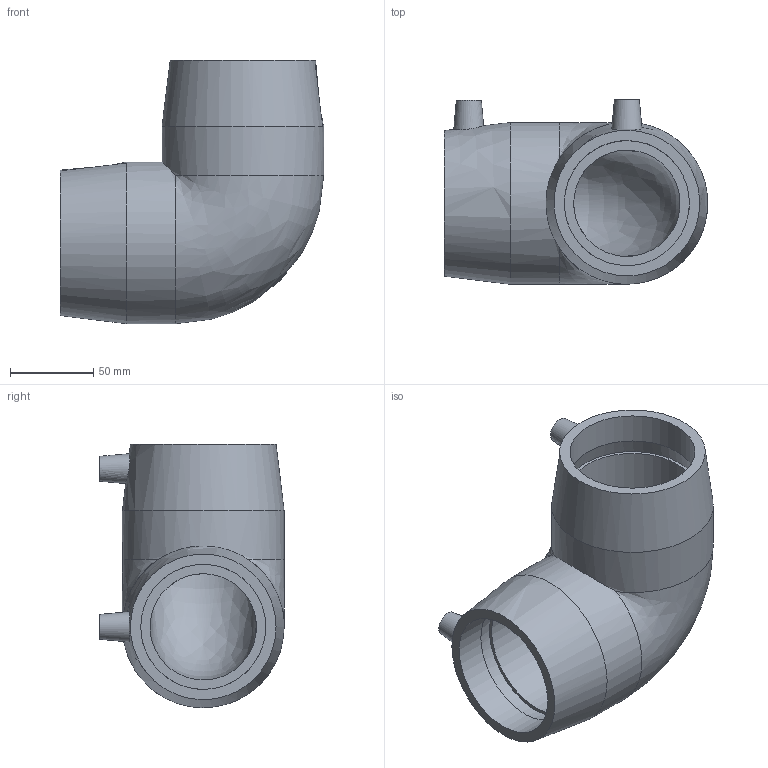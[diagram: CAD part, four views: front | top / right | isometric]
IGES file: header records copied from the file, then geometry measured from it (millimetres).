
Global section: file name: 490504075; native system: Autodesk Inventor 2026; preprocessor: unknown; author: KIM; date: 20260322.131459; units: millimetre
Bounding box: 157.98 x 110.5 x 157.99 mm (x, y, z)
Volume: 620066.3 mm3; surface area: 115168.5 mm2
Topology: 1 solids, 1 shells, 30 faces, 66 edges, 46 vertices
Faces by surface type: bspline 30
